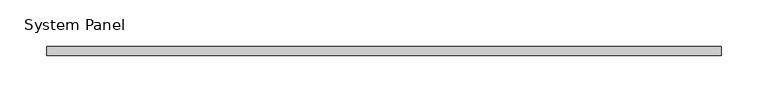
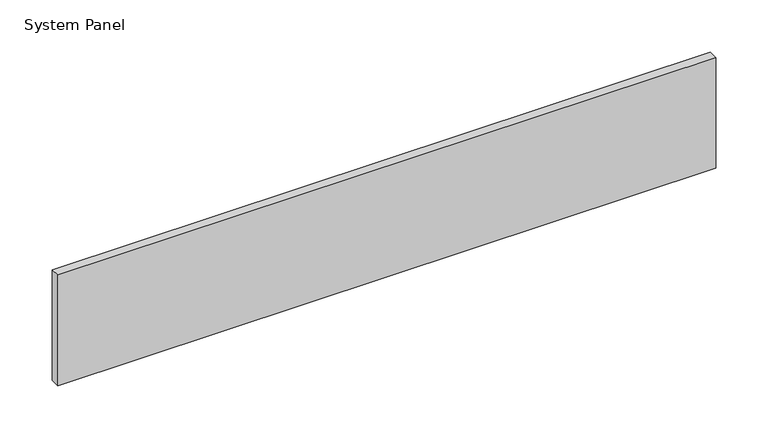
"""IFC4 building model written with IfcOpenShell, lengths in millimetres: plate geometry, System Panel : VACÍO."""

from ifc_helpers import new_model, si_unit, origin, origin_with_axes, place, context, project, spatial, polyline, outline, extrude, source, transform, mapped, element, save


def system_panel_3d32e46b(model_context):
    return source(origin(), model_context, "Body", "SweptSolid", [
        extrude(outline(polyline([(362.6063987, -5.0), (-362.6063987, -5.0), (-362.6063987, 5.0), (362.6063987, 5.0), (362.6063987, -5.0)])), origin_with_axes(), (0.0, 0.0, 1.0), 128.8571429),
    ])


if __name__ == "__main__":
    model = new_model("IFC4")
    model_context = context("Model", 3, world=origin())
    ifc_project = project(units=[si_unit("LENGTHUNIT", "METRE", prefix="MILLI")], contexts=[model_context])
    site = spatial("IfcSite", under=ifc_project)
    building = spatial("IfcBuilding", under=site)
    placement = place(None, origin())
    system_panel_shape = system_panel_3d32e46b(model_context)
    element("IfcPlate", 1, ObjectType="System Panel : VACÍO", at=placement, inside=building, context=model_context, shape_type="MappedRepresentation", body=[
        mapped(system_panel_shape, transform((0.0, 0.0, 0.0), x_axis=(1.0, 0.0, 0.0), y_axis=(0.0, 1.0, 0.0), z_axis=(0.0, 0.0, 1.0))),
    ])
    save(model, "model.ifc")
